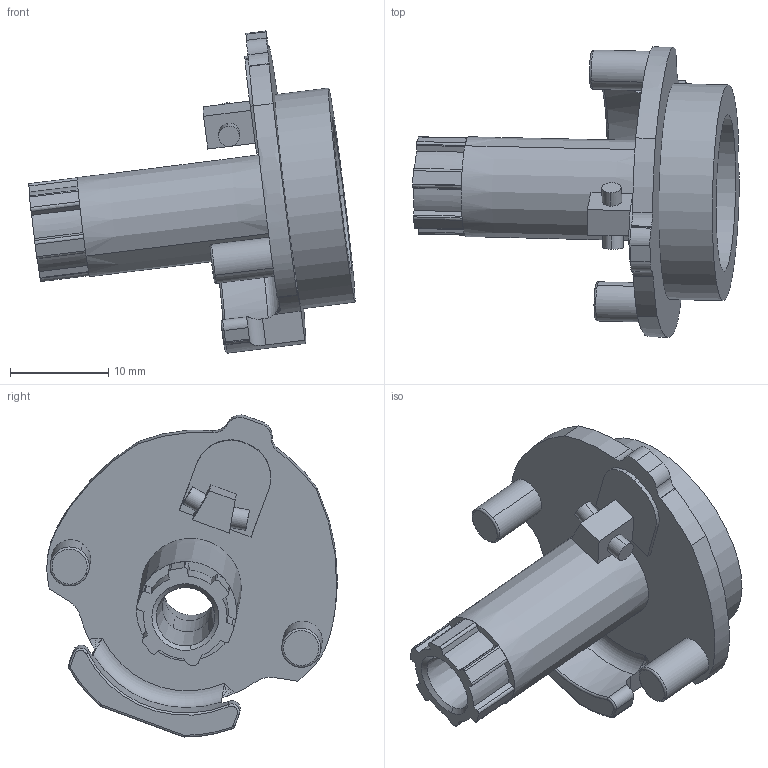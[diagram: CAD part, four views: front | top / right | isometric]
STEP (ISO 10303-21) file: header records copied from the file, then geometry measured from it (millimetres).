
FILE_DESCRIPTION(('CATIA V5 STEP Exchange'),'2;1');
FILE_NAME('G:\够快云库\系统集成开发部\1.部门成员\孙国\3D-stp打印件\20211216\KHWJG-005-1216 弹簧座.stp','2021-12-16T06:46:00+00:00',('none'),('none'),'CATIA Version 5 Release 20 GA (IN-10)','CATIA V5 STEP AP214','none');
FILE_SCHEMA(('AUTOMOTIVE_DESIGN { 1 0 10303 214 1 1 1 1 }'));
Length unit declared in the file: millimetre
Products named in the file (1): KHWJG-005
Bounding box: 33.26 x 29.55 x 32.79 mm (x, y, z)
Volume: 4127.6 mm3; surface area: 3880.7 mm2
Topology: 1 solids, 1 shells, 154 faces, 474 edges, 329 vertices
Faces by surface type: plane 50, cylinder 48, extrusion 25, torus 16, cone 8, bspline 7
Entity records: 5989 total; most frequent: CARTESIAN_POINT 2034, ORIENTED_EDGE 942, DIRECTION 590, EDGE_CURVE 471, VERTEX_POINT 329, AXIS2_PLACEMENT_3D 258, VECTOR 213, LINE 188
